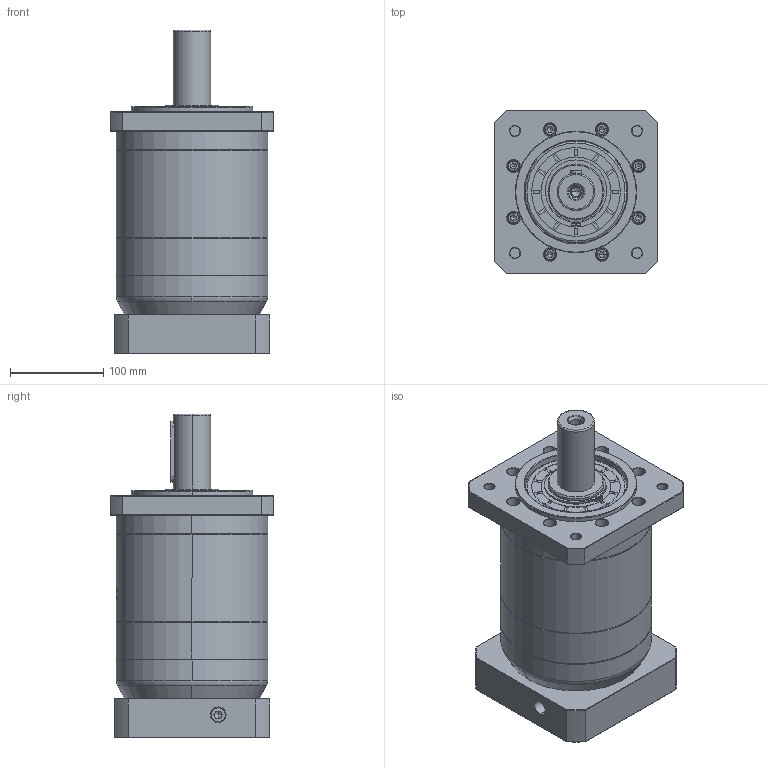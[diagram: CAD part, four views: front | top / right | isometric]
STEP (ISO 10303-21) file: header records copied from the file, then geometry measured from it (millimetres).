
FILE_DESCRIPTION (( 'STEP AP214' ), '1' );
FILE_NAME ('ZF160-D40-L3-28-130-165-M10.step', '2023-03-21T04:30:04', ( '' ), ( '' ), 'SwSTEP 2.0', 'SolidWorks 2016', '' );
FILE_SCHEMA (( 'AUTOMOTIVE_DESIGN' ));
Length unit declared in the file: millimetre
Products named in the file (1): ZF160-D40-L3-28-130-165-M10
Bounding box: 175 x 175 x 346.2 mm (x, y, z)
Volume: 5539523.1 mm3; surface area: 366199 mm2
Topology: 6 solids, 6 shells, 1642 faces, 4263 edges, 2728 vertices
Faces by surface type: plane 643, cylinder 428, cone 329, bspline 218, torus 24
Entity records: 93239 total; most frequent: CARTESIAN_POINT 37245, ORIENTED_EDGE 8466, DIRECTION 7181, EDGE_CURVE 4233, VERTEX_POINT 2728, AXIS2_PLACEMENT_3D 2492, VECTOR 2197, LINE 2197
